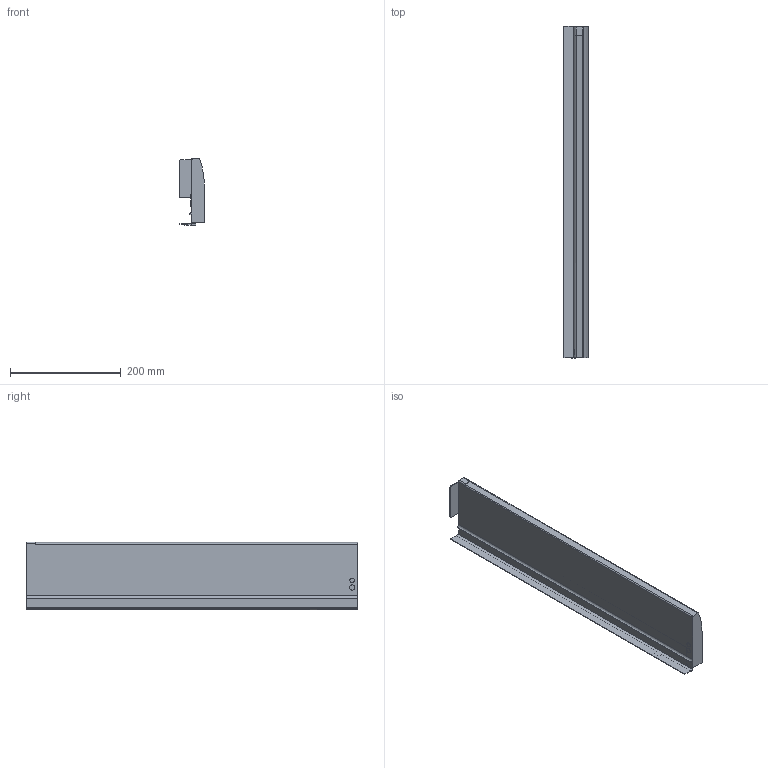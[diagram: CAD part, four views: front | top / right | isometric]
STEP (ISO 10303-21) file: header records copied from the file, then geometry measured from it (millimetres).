
FILE_DESCRIPTION (( 'STEP AP214' ), '1' );
FILE_NAME ('_IMOS_NOVA-Pro_Dekor-H122_DL_NL600_RE.step', '2010-07-14T11:02:07', ( 'grass' ), ( '' ), 'SwSTEP 2.0', 'SolidWorks 2010', '' );
FILE_SCHEMA (( 'AUTOMOTIVE_DESIGN' ));
Length unit declared in the file: millimetre
Products named in the file (1): _IMOS_NOVA-Pro_Dekor-H122_DL_NL600_RE
Bounding box: 44.3 x 598.45 x 122.49 mm (x, y, z)
Volume: 1100372.6 mm3; surface area: 244182.8 mm2
Topology: 1 solids, 1 shells, 72 faces, 201 edges, 134 vertices
Faces by surface type: plane 49, cylinder 22, bspline 1
Entity records: 2349 total; most frequent: CARTESIAN_POINT 421, ORIENTED_EDGE 402, DIRECTION 390, EDGE_CURVE 201, LINE 152, VECTOR 152, VERTEX_POINT 134, AXIS2_PLACEMENT_3D 119
